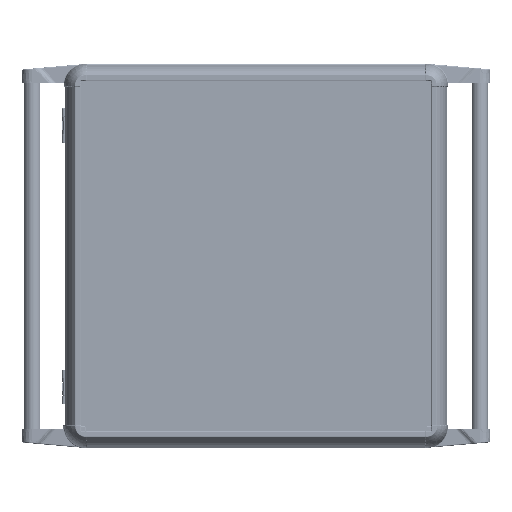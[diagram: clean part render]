
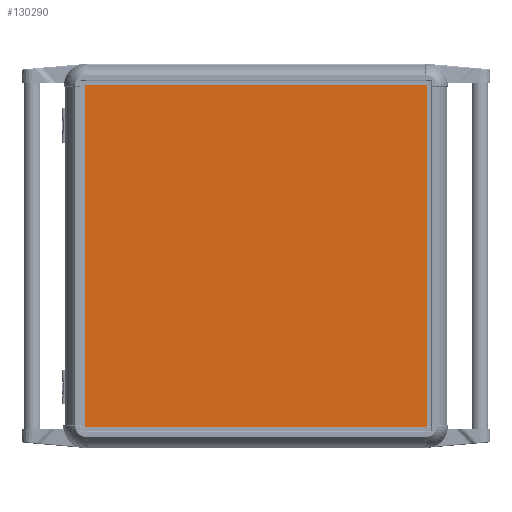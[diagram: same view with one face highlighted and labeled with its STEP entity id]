
A CAD part, top view. The second image highlights one B-rep face of the part: STEP entity #130290.
In plain terms, the highlighted planar face has unit normal (0, 0, 1).
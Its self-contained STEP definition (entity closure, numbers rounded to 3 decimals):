
#443 = DIRECTION ( 'NONE',  ( 0., 0., 1. ) ) ;
#14222 = VERTEX_POINT ( 'NONE', #35953 ) ;
#17369 = LINE ( 'NONE', #147564, #147186 ) ;
#25812 = PLANE ( 'NONE',  #288955 ) ;
#35953 = CARTESIAN_POINT ( 'NONE',  ( 200., 200., 2. ) ) ;
#44802 = ORIENTED_EDGE ( 'NONE', *, *, #242198, .T. ) ;
#60659 = EDGE_CURVE ( 'NONE', #309949, #14222, #75297, .T. ) ;
#73258 = LINE ( 'NONE', #100181, #304033 ) ;
#75297 = LINE ( 'NONE', #303485, #268225 ) ;
#76541 = EDGE_CURVE ( 'NONE', #14222, #78545, #17369, .T. ) ;
#78545 = VERTEX_POINT ( 'NONE', #321159 ) ;
#79228 = VECTOR ( 'NONE', #229097, 1000. ) ;
#100181 = CARTESIAN_POINT ( 'NONE',  ( -200., 200., 2. ) ) ;
#100666 = ORIENTED_EDGE ( 'NONE', *, *, #60659, .T. ) ;
#103461 = DIRECTION ( 'NONE',  ( 1., 0., 0. ) ) ;
#123528 = CARTESIAN_POINT ( 'NONE',  ( -200., -200., 2. ) ) ;
#123968 = ORIENTED_EDGE ( 'NONE', *, *, #232398, .T. ) ;
#124300 = DIRECTION ( 'NONE',  ( 0., 1., 0. ) ) ;
#128923 = CARTESIAN_POINT ( 'NONE',  ( 0., 0., 2. ) ) ;
#130290 = ADVANCED_FACE ( 'NONE', ( #257515 ), #25812, .T. ) ;
#147186 = VECTOR ( 'NONE', #303007, 1000. ) ;
#147564 = CARTESIAN_POINT ( 'NONE',  ( -200., 200., 2. ) ) ;
#201705 = DIRECTION ( 'NONE',  ( 0., -1., 0. ) ) ;
#208378 = VERTEX_POINT ( 'NONE', #123528 ) ;
#219922 = EDGE_LOOP ( 'NONE', ( #100666, #324834, #123968, #44802 ) ) ;
#229097 = DIRECTION ( 'NONE',  ( 1., 0., 0. ) ) ;
#232398 = EDGE_CURVE ( 'NONE', #78545, #208378, #73258, .T. ) ;
#242198 = EDGE_CURVE ( 'NONE', #208378, #309949, #274871, .T. ) ;
#249562 = CARTESIAN_POINT ( 'NONE',  ( -200., -200., 2. ) ) ;
#257515 = FACE_OUTER_BOUND ( 'NONE', #219922, .T. ) ;
#267517 = CARTESIAN_POINT ( 'NONE',  ( 200., -200., 2. ) ) ;
#268225 = VECTOR ( 'NONE', #124300, 1000. ) ;
#274871 = LINE ( 'NONE', #249562, #79228 ) ;
#288955 = AXIS2_PLACEMENT_3D ( 'NONE', #128923, #443, #103461 ) ;
#303007 = DIRECTION ( 'NONE',  ( -1., 0., 0. ) ) ;
#303485 = CARTESIAN_POINT ( 'NONE',  ( 200., 200., 2. ) ) ;
#304033 = VECTOR ( 'NONE', #201705, 1000. ) ;
#309949 = VERTEX_POINT ( 'NONE', #267517 ) ;
#321159 = CARTESIAN_POINT ( 'NONE',  ( -200., 200., 2. ) ) ;
#324834 = ORIENTED_EDGE ( 'NONE', *, *, #76541, .T. ) ;
